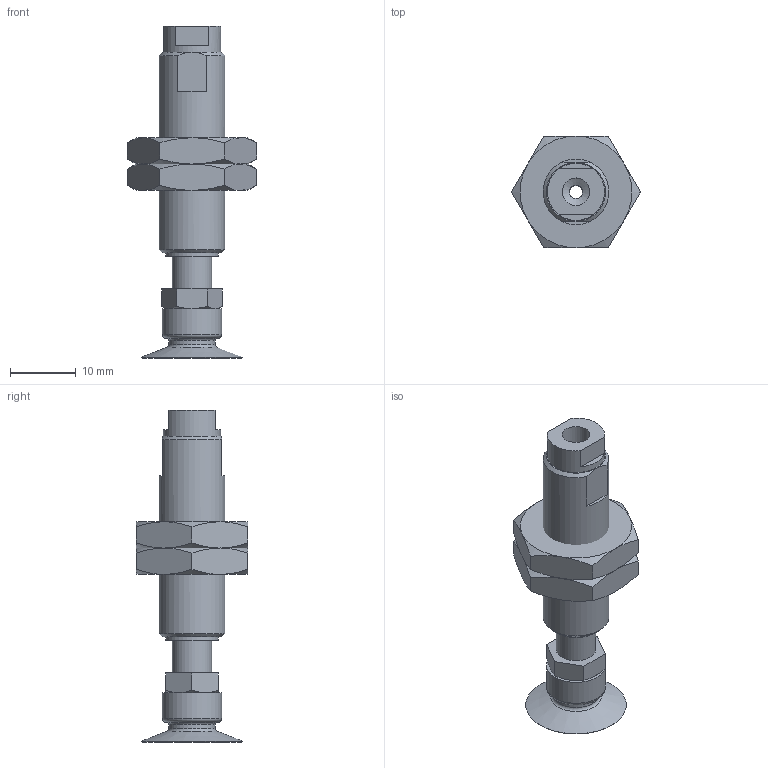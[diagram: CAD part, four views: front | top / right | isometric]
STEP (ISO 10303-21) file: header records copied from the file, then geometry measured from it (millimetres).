
FILE_DESCRIPTION(('STEP AP203'),'1');
FILE_NAME('-LB.stp','2025-03-28T07:56:50',(' '),(' '),'Spatial InterOp 3D',' ',' ');
FILE_SCHEMA(('CONFIG_CONTROL_DESIGN'));
Length unit declared in the file: millimetre
Products named in the file (8): BNAPFTH-10A-5-※-LB; __; BODY; NUT; TN-PS-10-M5; Setting screws-TN-PS-10-M5; BPAG-15A-※
Assembly tree (7 placements, depth 3):
  BNAPFTH-10A-5-※-LB
    __
    BODY
    NUT
    NUT
    TN-PS-10-M5
      Setting screws-TN-PS-10-M5
    BPAG-15A-※
Bounding box: 19.63 x 17 x 50.5 mm (x, y, z)
Volume: 4565.9 mm3; surface area: 4213.6 mm2
Topology: 6 solids, 6 shells, 157 faces, 312 edges, 191 vertices
Faces by surface type: plane 74, cone 40, cylinder 35, torus 8
Full cylindrical faces by diameter (mm): 0.9 x16, 2 x3, 3.9 x1, 4 x2, 4.2 x2, 5 x1, 6 x3, 7 x1, 8 x1, 8.7 x1, 9 x3, 10 x1
Entity records: 4234 total; most frequent: CARTESIAN_POINT 834, DIRECTION 648, ORIENTED_EDGE 506, AXIS2_PLACEMENT_3D 293, EDGE_CURVE 253, EDGE_LOOP 244, FACE_OUTER_BOUND 200, VERTEX_POINT 183
